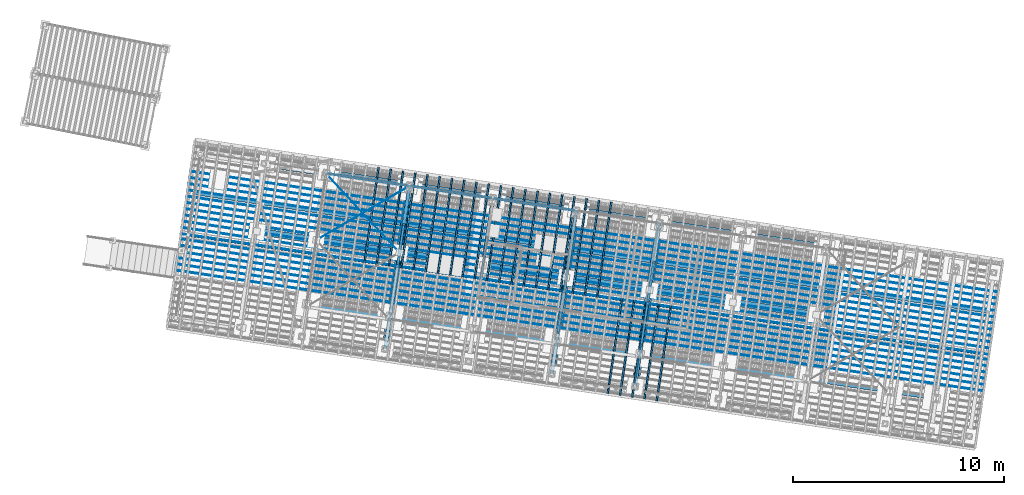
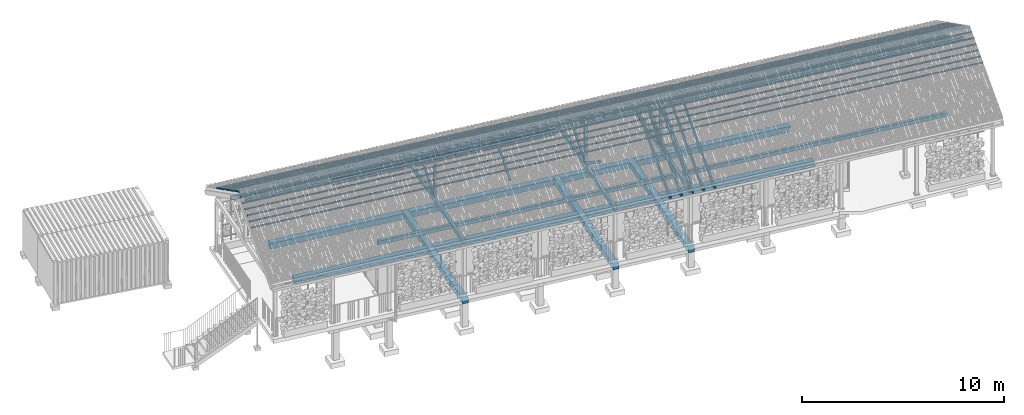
# One storey, part 80 of 131: 63 members, 11 beams, 2 elements without a shape of their own.
"""IFC4 building model written with IfcOpenShell, lengths in metres."""

from ifc_helpers import new_model, si_unit, direction, frame, origin_with_axes, place, context, subcontext, project, spatial, polyline, rectangle, outline, extrude, material, material_profile, profile_set, profile_usage, type_object, element, aggregate, save


model = new_model("IFC4")

# Units and contexts
model_context = context("Model", 3, precision=1e-05, world=origin_with_axes(), true_north=direction((0.0, 1.0)))
body_context = subcontext(model_context, "Body", "Model", "MODEL_VIEW")
ifc_project = project(units=[si_unit("VOLUMEUNIT", "CUBIC_METRE"), si_unit("LENGTHUNIT", "METRE"), si_unit("AREAUNIT", "SQUARE_METRE")], contexts=[model_context])

# Site, building, storey
site_placement = place(None, origin_with_axes())
site = spatial("IfcSite", under=ifc_project, at=site_placement, Name="Lares · Rua das Mercês · artigo 4771")
building_placement = place(site_placement, frame((15.0, 9.7, 14.65), z_axis=(0.0, 0.0, 1.0), x_axis=(0.989015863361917, -0.147809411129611, 0.0)))
building = spatial("IfcBuilding", under=site, at=building_placement, Name="Casa Sobreposta")
storey_placement = place(building_placement, origin_with_axes())
storey = spatial("IfcBuildingStorey", under=building, at=storey_placement, Name="00 · Habitação e estacionamento", Elevation=14.65)

# Beam
ifc_material_1 = material(Name="Madeira / Bauholz", Category="wood")
ifc_material_profile_1 = material_profile(ifc_material_1, rectangle(XDim=0.16, YDim=0.22))
ifc_profile_set_1 = profile_set([ifc_material_profile_1], Name="TIMBER0.160x0.220")
ifc_profile_usage_1 = profile_usage(ifc_profile_set_1)
beam_type_1 = type_object("IfcBeamType", Name="TIMBER0.160x0.220 / timber", PredefinedType="NOTDEFINED", material=ifc_profile_set_1)
beam_1_placement = place(storey_placement, frame((0.0, 0.12, 3.0), z_axis=(1.0, 0.0, 0.0), x_axis=(0.0, -1.0, 0.0)))
element("IfcBeam", 1, at=beam_1_placement, inside=storey, type_object=beam_type_1, material=ifc_profile_usage_1, Name="Cobertura · frechal longitudinal", context=body_context, shape_type="SweptSolid", body=[
    extrude(rectangle(XDim=0.16, YDim=0.22), origin_with_axes(), (0.0, 0.0, 1.0), 30.22),
])

# Members
ifc_material_2 = material(Name="Aço pintado / Stahl lackiert", Category="steel")
ifc_material_profile_2 = material_profile(ifc_material_2, rectangle(XDim=0.035, YDim=0.035))
ifc_profile_set_2 = profile_set([ifc_material_profile_2], Name="R0.035")
ifc_profile_usage_2 = profile_usage(ifc_profile_set_2)
member_type_1 = type_object("IfcMemberType", Name="R0.035 / steel", PredefinedType="NOTDEFINED", material=ifc_profile_set_2)
member_1_placement = place(storey_placement, frame((0.08, 6.4, 2.35), z_axis=(1.0, 0.0, 0.0), x_axis=(0.0, -1.0, 0.0)))
element("IfcMember", 2, at=member_1_placement, inside=storey, type_object=member_type_1, material=ifc_profile_usage_2, Name="Rasgo norte 1 · travessa", context=body_context, shape_type="SweptSolid", body=[
    extrude(rectangle(XDim=0.035, YDim=0.035), origin_with_axes(), (0.0, 0.0, 1.0), 3.84),
])
ifc_profile_usage_3 = profile_usage(ifc_profile_set_2)
member_2_placement = place(storey_placement, frame((0.08, 6.4, 2.7), z_axis=(1.0, 0.0, 0.0), x_axis=(0.0, -1.0, 0.0)))
element("IfcMember", 3, at=member_2_placement, inside=storey, type_object=member_type_1, material=ifc_profile_usage_3, Name="Rasgo norte 1 · travessa", context=body_context, shape_type="SweptSolid", body=[
    extrude(rectangle(XDim=0.035, YDim=0.035), origin_with_axes(), (0.0, 0.0, 1.0), 3.84),
])
ifc_profile_usage_4 = profile_usage(ifc_profile_set_2)
member_3_placement = place(storey_placement, frame((4.08, 6.4, 2.35), z_axis=(1.0, 0.0, 0.0), x_axis=(0.0, -1.0, 0.0)))
element("IfcMember", 4, at=member_3_placement, inside=storey, type_object=member_type_1, material=ifc_profile_usage_4, Name="Rasgo norte 2 · travessa", context=body_context, shape_type="SweptSolid", body=[
    extrude(rectangle(XDim=0.035, YDim=0.035), origin_with_axes(), (0.0, 0.0, 1.0), 3.84),
])
ifc_profile_usage_5 = profile_usage(ifc_profile_set_2)
member_4_placement = place(storey_placement, frame((4.08, 6.4, 2.7), z_axis=(1.0, 0.0, 0.0), x_axis=(0.0, -1.0, 0.0)))
element("IfcMember", 5, at=member_4_placement, inside=storey, type_object=member_type_1, material=ifc_profile_usage_5, Name="Rasgo norte 2 · travessa", context=body_context, shape_type="SweptSolid", body=[
    extrude(rectangle(XDim=0.035, YDim=0.035), origin_with_axes(), (0.0, 0.0, 1.0), 3.84),
])
ifc_profile_usage_6 = profile_usage(ifc_profile_set_2)
member_5_placement = place(storey_placement, frame((8.08, 6.4, 2.35), z_axis=(1.0, 0.0, 0.0), x_axis=(0.0, -1.0, 0.0)))
element("IfcMember", 6, at=member_5_placement, inside=storey, type_object=member_type_1, material=ifc_profile_usage_6, Name="Rasgo norte 3 · travessa", context=body_context, shape_type="SweptSolid", body=[
    extrude(rectangle(XDim=0.035, YDim=0.035), origin_with_axes(), (0.0, 0.0, 1.0), 3.84),
])
ifc_profile_usage_7 = profile_usage(ifc_profile_set_2)
member_6_placement = place(storey_placement, frame((8.08, 6.4, 2.7), z_axis=(1.0, 0.0, 0.0), x_axis=(0.0, -1.0, 0.0)))
element("IfcMember", 7, at=member_6_placement, inside=storey, type_object=member_type_1, material=ifc_profile_usage_7, Name="Rasgo norte 3 · travessa", context=body_context, shape_type="SweptSolid", body=[
    extrude(rectangle(XDim=0.035, YDim=0.035), origin_with_axes(), (0.0, 0.0, 1.0), 3.84),
])

# Roof, beams, members
roof_placement = place(storey_placement, origin_with_axes())
roof = element("IfcRoof", 8, at=roof_placement, inside=storey, material=ifc_material_1, Name="Cobertura de telha · duas águas 30 graus", PredefinedType="GABLE_ROOF")
ifc_material_profile_3 = material_profile(ifc_material_1, rectangle(XDim=0.16, YDim=0.24))
ifc_profile_set_3 = profile_set([ifc_material_profile_3], Name="TIMBER0.160x0.240")
ifc_profile_usage_8 = profile_usage(ifc_profile_set_3)
beam_type_2 = type_object("IfcBeamType", Name="TIMBER0.160x0.240 / timber", PredefinedType="NOTDEFINED", material=ifc_profile_set_3)
beam_2_placement = place(roof_placement, frame((4.0, -1.43, 3.02), z_axis=(0.0, 1.0, 0.0), x_axis=(1.0, 0.0, 0.0)))
beam_2 = element("IfcBeam", 9, at=beam_2_placement, type_object=beam_type_2, material=ifc_profile_usage_8, Name="Tesoura · tirante inferior", context=body_context, shape_type="SweptSolid", body=[
    extrude(rectangle(XDim=0.16, YDim=0.24), origin_with_axes(), (0.0, 0.0, 1.0), 7.86),
])
ifc_profile_usage_9 = profile_usage(ifc_profile_set_3)
beam_3_placement = place(roof_placement, frame((12.0, -1.43, 3.02), z_axis=(0.0, 1.0, 0.0), x_axis=(1.0, 0.0, 0.0)))
beam_3 = element("IfcBeam", 10, at=beam_3_placement, type_object=beam_type_2, material=ifc_profile_usage_9, Name="Tesoura · tirante inferior", context=body_context, shape_type="SweptSolid", body=[
    extrude(rectangle(XDim=0.16, YDim=0.24), origin_with_axes(), (0.0, 0.0, 1.0), 7.86),
])
ifc_profile_usage_10 = profile_usage(ifc_profile_set_3)
beam_4_placement = place(roof_placement, frame((16.0, -1.43, 3.02), z_axis=(0.0, 1.0, 0.0), x_axis=(1.0, 0.0, 0.0)))
beam_4 = element("IfcBeam", 11, at=beam_4_placement, type_object=beam_type_2, material=ifc_profile_usage_10, Name="Tesoura · tirante inferior", context=body_context, shape_type="SweptSolid", body=[
    extrude(rectangle(XDim=0.16, YDim=0.24), origin_with_axes(), (0.0, 0.0, 1.0), 7.86),
])
ifc_material_profile_4 = material_profile(ifc_material_1, rectangle(XDim=0.16, YDim=0.24))
ifc_profile_set_4 = profile_set([ifc_material_profile_4], Name="TIMBER0.160x0.240")
ifc_profile_usage_11 = profile_usage(ifc_profile_set_4)
member_type_2 = type_object("IfcMemberType", Name="TIMBER0.160x0.240 / timber", PredefinedType="NOTDEFINED", material=ifc_profile_set_4)
member_7_placement = place(roof_placement, frame((4.0, 2.55, 5.74420869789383), z_axis=(0.0, 0.866025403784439, -0.5), x_axis=(1.0, 0.0, 0.0)))
member_7 = element("IfcMember", 12, at=member_7_placement, type_object=member_type_2, material=ifc_profile_usage_11, Name="Tesoura · perna", context=body_context, shape_type="SweptSolid", body=[
    extrude(rectangle(XDim=0.16, YDim=0.24), origin_with_axes(), (0.0, 0.0, 1.0), 4.4802380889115),
])
ifc_profile_usage_12 = profile_usage(ifc_profile_set_4)
member_8_placement = place(roof_placement, frame((8.0, 2.55, 5.74420869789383), z_axis=(0.0, 0.866025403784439, -0.5), x_axis=(1.0, 0.0, 0.0)))
member_8 = element("IfcMember", 13, at=member_8_placement, type_object=member_type_2, material=ifc_profile_usage_12, Name="Tesoura · perna", context=body_context, shape_type="SweptSolid", body=[
    extrude(rectangle(XDim=0.16, YDim=0.24), origin_with_axes(), (0.0, 0.0, 1.0), 4.4802380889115),
])
ifc_profile_usage_13 = profile_usage(ifc_profile_set_4)
member_9_placement = place(roof_placement, frame((12.0, 2.55, 5.74420869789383), z_axis=(0.0, 0.866025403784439, -0.5), x_axis=(1.0, 0.0, 0.0)))
member_9 = element("IfcMember", 14, at=member_9_placement, type_object=member_type_2, material=ifc_profile_usage_13, Name="Tesoura · perna", context=body_context, shape_type="SweptSolid", body=[
    extrude(rectangle(XDim=0.16, YDim=0.24), origin_with_axes(), (0.0, 0.0, 1.0), 4.4802380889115),
])
ifc_profile_usage_14 = profile_usage(ifc_profile_set_4)
member_10_placement = place(roof_placement, frame((16.0, -1.43, 3.44635462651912), z_axis=(0.0, 0.866025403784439, 0.5), x_axis=(1.0, 0.0, 0.0)))
member_10 = element("IfcMember", 15, at=member_10_placement, type_object=member_type_2, material=ifc_profile_usage_14, Name="Tesoura · perna", context=body_context, shape_type="SweptSolid", body=[
    extrude(rectangle(XDim=0.16, YDim=0.24), origin_with_axes(), (0.0, 0.0, 1.0), 4.59570814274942),
])
ifc_material_profile_5 = material_profile(ifc_material_1, rectangle(XDim=0.14, YDim=0.14))
ifc_profile_set_5 = profile_set([ifc_material_profile_5], Name="TIMBER0.140x0.140")
ifc_profile_usage_15 = profile_usage(ifc_profile_set_5)
member_type_3 = type_object("IfcMemberType", Name="TIMBER0.140x0.140 / timber", PredefinedType="NOTDEFINED", material=ifc_profile_set_5)
member_11_placement = place(roof_placement, frame((4.0, 2.55, 3.02), z_axis=(0.0, 0.0, 1.0), x_axis=(1.0, 0.0, 0.0)))
member_11 = element("IfcMember", 16, at=member_11_placement, type_object=member_type_3, material=ifc_profile_usage_15, Name="Tesoura · pendural", context=body_context, shape_type="SweptSolid", body=[
    extrude(rectangle(XDim=0.14, YDim=0.14), origin_with_axes(), (0.0, 0.0, 1.0), 2.72420869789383),
])
ifc_profile_usage_16 = profile_usage(ifc_profile_set_5)
member_12_placement = place(roof_placement, frame((12.0, 2.55, 3.02), z_axis=(0.0, 0.0, 1.0), x_axis=(1.0, 0.0, 0.0)))
member_12 = element("IfcMember", 17, at=member_12_placement, type_object=member_type_3, material=ifc_profile_usage_16, Name="Tesoura · pendural", context=body_context, shape_type="SweptSolid", body=[
    extrude(rectangle(XDim=0.14, YDim=0.14), origin_with_axes(), (0.0, 0.0, 1.0), 2.72420869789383),
])
ifc_profile_usage_17 = profile_usage(ifc_profile_set_5)
member_13_placement = place(roof_placement, frame((16.0, 2.55, 3.02), z_axis=(0.0, 0.0, 1.0), x_axis=(1.0, 0.0, 0.0)))
member_13 = element("IfcMember", 18, at=member_13_placement, type_object=member_type_3, material=ifc_profile_usage_17, Name="Tesoura · pendural", context=body_context, shape_type="SweptSolid", body=[
    extrude(rectangle(XDim=0.14, YDim=0.14), origin_with_axes(), (0.0, 0.0, 1.0), 2.72420869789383),
])
ifc_material_profile_6 = material_profile(ifc_material_1, rectangle(XDim=0.1, YDim=0.16))
ifc_profile_set_6 = profile_set([ifc_material_profile_6], Name="TIMBER0.100x0.160")
ifc_profile_usage_18 = profile_usage(ifc_profile_set_6)
member_type_4 = type_object("IfcMemberType", Name="TIMBER0.100x0.160 / timber", PredefinedType="NOTDEFINED", material=ifc_profile_set_6)
member_14_placement = place(roof_placement, frame((4.0, 2.55, 3.1), z_axis=(0.0, 0.816439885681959, 0.577430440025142), x_axis=(1.0, 0.0, 0.0)))
member_14 = element("IfcMember", 19, at=member_14_placement, type_object=member_type_4, material=ifc_profile_usage_18, Name="Tesoura · escora", context=body_context, shape_type="SweptSolid", body=[
    extrude(rectangle(XDim=0.1, YDim=0.16), origin_with_axes(), (0.0, 0.0, 1.0), 2.44965984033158),
])
ifc_profile_usage_19 = profile_usage(ifc_profile_set_6)
member_15_placement = place(roof_placement, frame((8.0, 2.55, 3.1), z_axis=(0.0, 0.816439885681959, 0.577430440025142), x_axis=(1.0, 0.0, 0.0)))
member_15 = element("IfcMember", 20, at=member_15_placement, type_object=member_type_4, material=ifc_profile_usage_19, Name="Tesoura · escora", context=body_context, shape_type="SweptSolid", body=[
    extrude(rectangle(XDim=0.1, YDim=0.16), origin_with_axes(), (0.0, 0.0, 1.0), 2.44965984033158),
])
ifc_profile_usage_20 = profile_usage(ifc_profile_set_6)
member_16_placement = place(roof_placement, frame((12.0, 2.55, 3.1), z_axis=(0.0, -0.816439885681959, 0.577430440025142), x_axis=(-1.0, 0.0, 0.0)))
member_16 = element("IfcMember", 21, at=member_16_placement, type_object=member_type_4, material=ifc_profile_usage_20, Name="Tesoura · escora", context=body_context, shape_type="SweptSolid", body=[
    extrude(rectangle(XDim=0.1, YDim=0.16), origin_with_axes(), (0.0, 0.0, 1.0), 2.44965984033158),
])
ifc_profile_usage_21 = profile_usage(ifc_profile_set_6)
member_17_placement = place(roof_placement, frame((12.0, 2.55, 3.1), z_axis=(0.0, 0.816439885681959, 0.577430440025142), x_axis=(1.0, 0.0, 0.0)))
member_17 = element("IfcMember", 22, at=member_17_placement, type_object=member_type_4, material=ifc_profile_usage_21, Name="Tesoura · escora", context=body_context, shape_type="SweptSolid", body=[
    extrude(rectangle(XDim=0.1, YDim=0.16), origin_with_axes(), (0.0, 0.0, 1.0), 2.44965984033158),
])
ifc_profile_usage_22 = profile_usage(ifc_profile_set_6)
member_18_placement = place(roof_placement, frame((16.0, 2.55, 3.1), z_axis=(0.0, -0.816439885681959, 0.577430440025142), x_axis=(-1.0, 0.0, 0.0)))
member_18 = element("IfcMember", 23, at=member_18_placement, type_object=member_type_4, material=ifc_profile_usage_22, Name="Tesoura · escora", context=body_context, shape_type="SweptSolid", body=[
    extrude(rectangle(XDim=0.1, YDim=0.16), origin_with_axes(), (0.0, 0.0, 1.0), 2.44965984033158),
])
ifc_profile_usage_23 = profile_usage(ifc_profile_set_6)
member_19_placement = place(roof_placement, frame((16.0, 2.55, 3.1), z_axis=(0.0, 0.816439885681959, 0.577430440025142), x_axis=(1.0, 0.0, 0.0)))
member_19 = element("IfcMember", 24, at=member_19_placement, type_object=member_type_4, material=ifc_profile_usage_23, Name="Tesoura · escora", context=body_context, shape_type="SweptSolid", body=[
    extrude(rectangle(XDim=0.1, YDim=0.16), origin_with_axes(), (0.0, 0.0, 1.0), 2.44965984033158),
])
ifc_material_profile_7 = material_profile(ifc_material_1, rectangle(XDim=0.08, YDim=0.24))
ifc_profile_set_7 = profile_set([ifc_material_profile_7], Name="TIMBER0.080x0.240")
ifc_profile_usage_24 = profile_usage(ifc_profile_set_7)
member_type_5 = type_object("IfcMemberType", Name="TIMBER0.080x0.240 / timber", PredefinedType="NOTDEFINED", material=ifc_profile_set_7)
member_20_placement = place(roof_placement, frame((2.41818181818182, 2.55, 5.75020869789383), z_axis=(0.0, 0.866025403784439, -0.5), x_axis=(1.0, 0.0, 0.0)))
member_20 = element("IfcMember", 25, at=member_20_placement, type_object=member_type_5, material=ifc_profile_usage_24, Name="Cobertura · caibro", context=body_context, shape_type="SweptSolid", body=[
    extrude(rectangle(XDim=0.08, YDim=0.24), origin_with_axes(), (0.0, 0.0, 1.0), 5.13841739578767),
])
ifc_profile_usage_25 = profile_usage(ifc_profile_set_7)
member_21_placement = place(roof_placement, frame((3.00606060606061, 2.55, 5.75020869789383), z_axis=(0.0, 0.866025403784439, -0.5), x_axis=(1.0, 0.0, 0.0)))
member_21 = element("IfcMember", 26, at=member_21_placement, type_object=member_type_5, material=ifc_profile_usage_25, Name="Cobertura · caibro", context=body_context, shape_type="SweptSolid", body=[
    extrude(rectangle(XDim=0.08, YDim=0.24), origin_with_axes(), (0.0, 0.0, 1.0), 5.13841739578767),
])
ifc_profile_usage_26 = profile_usage(ifc_profile_set_7)
member_22_placement = place(roof_placement, frame((3.59393939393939, 2.55, 5.75020869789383), z_axis=(0.0, 0.866025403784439, -0.5), x_axis=(1.0, 0.0, 0.0)))
member_22 = element("IfcMember", 27, at=member_22_placement, type_object=member_type_5, material=ifc_profile_usage_26, Name="Cobertura · caibro", context=body_context, shape_type="SweptSolid", body=[
    extrude(rectangle(XDim=0.08, YDim=0.24), origin_with_axes(), (0.0, 0.0, 1.0), 5.13841739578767),
])
ifc_profile_usage_27 = profile_usage(ifc_profile_set_7)
member_23_placement = place(roof_placement, frame((4.18181818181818, 2.55, 5.75020869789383), z_axis=(0.0, 0.866025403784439, -0.5), x_axis=(1.0, 0.0, 0.0)))
member_23 = element("IfcMember", 28, at=member_23_placement, type_object=member_type_5, material=ifc_profile_usage_27, Name="Cobertura · caibro", context=body_context, shape_type="SweptSolid", body=[
    extrude(rectangle(XDim=0.08, YDim=0.24), origin_with_axes(), (0.0, 0.0, 1.0), 5.13841739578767),
])
ifc_profile_usage_28 = profile_usage(ifc_profile_set_7)
member_24_placement = place(roof_placement, frame((4.76969696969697, 2.55, 5.75020869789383), z_axis=(0.0, 0.866025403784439, -0.5), x_axis=(1.0, 0.0, 0.0)))
member_24 = element("IfcMember", 29, at=member_24_placement, type_object=member_type_5, material=ifc_profile_usage_28, Name="Cobertura · caibro", context=body_context, shape_type="SweptSolid", body=[
    extrude(rectangle(XDim=0.08, YDim=0.24), origin_with_axes(), (0.0, 0.0, 1.0), 5.13841739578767),
])
ifc_profile_usage_29 = profile_usage(ifc_profile_set_7)
member_25_placement = place(roof_placement, frame((5.35757575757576, 2.55, 5.75020869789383), z_axis=(0.0, 0.866025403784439, -0.5), x_axis=(1.0, 0.0, 0.0)))
member_25 = element("IfcMember", 30, at=member_25_placement, type_object=member_type_5, material=ifc_profile_usage_29, Name="Cobertura · caibro", context=body_context, shape_type="SweptSolid", body=[
    extrude(rectangle(XDim=0.08, YDim=0.24), origin_with_axes(), (0.0, 0.0, 1.0), 5.13841739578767),
])
ifc_profile_usage_30 = profile_usage(ifc_profile_set_7)
member_26_placement = place(roof_placement, frame((5.94545454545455, 2.55, 5.75020869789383), z_axis=(0.0, 0.866025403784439, -0.5), x_axis=(1.0, 0.0, 0.0)))
member_26 = element("IfcMember", 31, at=member_26_placement, type_object=member_type_5, material=ifc_profile_usage_30, Name="Cobertura · caibro", context=body_context, shape_type="SweptSolid", body=[
    extrude(rectangle(XDim=0.08, YDim=0.24), origin_with_axes(), (0.0, 0.0, 1.0), 5.13841739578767),
])
ifc_profile_usage_31 = profile_usage(ifc_profile_set_7)
member_27_placement = place(roof_placement, frame((6.53333333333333, 2.55, 5.75020869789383), z_axis=(0.0, 0.866025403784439, -0.5), x_axis=(1.0, 0.0, 0.0)))
member_27 = element("IfcMember", 32, at=member_27_placement, type_object=member_type_5, material=ifc_profile_usage_31, Name="Cobertura · caibro", context=body_context, shape_type="SweptSolid", body=[
    extrude(rectangle(XDim=0.08, YDim=0.24), origin_with_axes(), (0.0, 0.0, 1.0), 5.13841739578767),
])
ifc_profile_usage_32 = profile_usage(ifc_profile_set_7)
member_28_placement = place(roof_placement, frame((7.12121212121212, 2.55, 5.75020869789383), z_axis=(0.0, 0.866025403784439, -0.5), x_axis=(1.0, 0.0, 0.0)))
member_28 = element("IfcMember", 33, at=member_28_placement, type_object=member_type_5, material=ifc_profile_usage_32, Name="Cobertura · caibro", context=body_context, shape_type="SweptSolid", body=[
    extrude(rectangle(XDim=0.08, YDim=0.24), origin_with_axes(), (0.0, 0.0, 1.0), 5.13841739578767),
])
ifc_profile_usage_33 = profile_usage(ifc_profile_set_7)
member_29_placement = place(roof_placement, frame((7.70909090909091, 2.55, 5.75020869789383), z_axis=(0.0, 0.866025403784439, -0.5), x_axis=(1.0, 0.0, 0.0)))
member_29 = element("IfcMember", 34, at=member_29_placement, type_object=member_type_5, material=ifc_profile_usage_33, Name="Cobertura · caibro", context=body_context, shape_type="SweptSolid", body=[
    extrude(rectangle(XDim=0.08, YDim=0.24), origin_with_axes(), (0.0, 0.0, 1.0), 5.13841739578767),
])
ifc_profile_usage_34 = profile_usage(ifc_profile_set_7)
member_30_placement = place(roof_placement, frame((8.2969696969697, 2.55, 5.75020869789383), z_axis=(0.0, 0.866025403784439, -0.5), x_axis=(1.0, 0.0, 0.0)))
member_30 = element("IfcMember", 35, at=member_30_placement, type_object=member_type_5, material=ifc_profile_usage_34, Name="Cobertura · caibro", context=body_context, shape_type="SweptSolid", body=[
    extrude(rectangle(XDim=0.08, YDim=0.24), origin_with_axes(), (0.0, 0.0, 1.0), 5.13841739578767),
])
ifc_profile_usage_35 = profile_usage(ifc_profile_set_7)
member_31_placement = place(roof_placement, frame((8.88484848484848, 2.55, 5.75020869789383), z_axis=(0.0, 0.866025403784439, -0.5), x_axis=(1.0, 0.0, 0.0)))
member_31 = element("IfcMember", 36, at=member_31_placement, type_object=member_type_5, material=ifc_profile_usage_35, Name="Cobertura · caibro", context=body_context, shape_type="SweptSolid", body=[
    extrude(rectangle(XDim=0.08, YDim=0.24), origin_with_axes(), (0.0, 0.0, 1.0), 5.13841739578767),
])
ifc_profile_usage_36 = profile_usage(ifc_profile_set_7)
member_32_placement = place(roof_placement, frame((9.47272727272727, 2.55, 5.75020869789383), z_axis=(0.0, 0.866025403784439, -0.5), x_axis=(1.0, 0.0, 0.0)))
member_32 = element("IfcMember", 37, at=member_32_placement, type_object=member_type_5, material=ifc_profile_usage_36, Name="Cobertura · caibro", context=body_context, shape_type="SweptSolid", body=[
    extrude(rectangle(XDim=0.08, YDim=0.24), origin_with_axes(), (0.0, 0.0, 1.0), 5.13841739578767),
])
ifc_profile_usage_37 = profile_usage(ifc_profile_set_7)
member_33_placement = place(roof_placement, frame((10.0606060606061, 2.55, 5.75020869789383), z_axis=(0.0, 0.866025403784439, -0.5), x_axis=(1.0, 0.0, 0.0)))
member_33 = element("IfcMember", 38, at=member_33_placement, type_object=member_type_5, material=ifc_profile_usage_37, Name="Cobertura · caibro", context=body_context, shape_type="SweptSolid", body=[
    extrude(rectangle(XDim=0.08, YDim=0.24), origin_with_axes(), (0.0, 0.0, 1.0), 5.13841739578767),
])
ifc_profile_usage_38 = profile_usage(ifc_profile_set_7)
member_34_placement = place(roof_placement, frame((10.6484848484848, 2.55, 5.75020869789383), z_axis=(0.0, 0.866025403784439, -0.5), x_axis=(1.0, 0.0, 0.0)))
member_34 = element("IfcMember", 39, at=member_34_placement, type_object=member_type_5, material=ifc_profile_usage_38, Name="Cobertura · caibro", context=body_context, shape_type="SweptSolid", body=[
    extrude(rectangle(XDim=0.08, YDim=0.24), origin_with_axes(), (0.0, 0.0, 1.0), 5.13841739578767),
])
ifc_profile_usage_39 = profile_usage(ifc_profile_set_7)
member_35_placement = place(roof_placement, frame((11.2363636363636, 2.55, 5.75020869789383), z_axis=(0.0, 0.866025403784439, -0.5), x_axis=(1.0, 0.0, 0.0)))
member_35 = element("IfcMember", 40, at=member_35_placement, type_object=member_type_5, material=ifc_profile_usage_39, Name="Cobertura · caibro", context=body_context, shape_type="SweptSolid", body=[
    extrude(rectangle(XDim=0.08, YDim=0.24), origin_with_axes(), (0.0, 0.0, 1.0), 5.13841739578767),
])
ifc_profile_usage_40 = profile_usage(ifc_profile_set_7)
member_36_placement = place(roof_placement, frame((11.8242424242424, 2.55, 5.75020869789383), z_axis=(0.0, 0.866025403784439, -0.5), x_axis=(1.0, 0.0, 0.0)))
member_36 = element("IfcMember", 41, at=member_36_placement, type_object=member_type_5, material=ifc_profile_usage_40, Name="Cobertura · caibro", context=body_context, shape_type="SweptSolid", body=[
    extrude(rectangle(XDim=0.08, YDim=0.24), origin_with_axes(), (0.0, 0.0, 1.0), 5.13841739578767),
])
ifc_profile_usage_41 = profile_usage(ifc_profile_set_7)
member_37_placement = place(roof_placement, frame((12.4121212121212, 2.55, 5.75020869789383), z_axis=(0.0, 0.866025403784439, -0.5), x_axis=(1.0, 0.0, 0.0)))
member_37 = element("IfcMember", 42, at=member_37_placement, type_object=member_type_5, material=ifc_profile_usage_41, Name="Cobertura · caibro", context=body_context, shape_type="SweptSolid", body=[
    extrude(rectangle(XDim=0.08, YDim=0.24), origin_with_axes(), (0.0, 0.0, 1.0), 5.13841739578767),
])
ifc_profile_usage_42 = profile_usage(ifc_profile_set_7)
member_38_placement = place(roof_placement, frame((13.0, 2.55, 5.75020869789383), z_axis=(0.0, 0.866025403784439, -0.5), x_axis=(1.0, 0.0, 0.0)))
member_38 = element("IfcMember", 43, at=member_38_placement, type_object=member_type_5, material=ifc_profile_usage_42, Name="Cobertura · caibro", context=body_context, shape_type="SweptSolid", body=[
    extrude(rectangle(XDim=0.08, YDim=0.24), origin_with_axes(), (0.0, 0.0, 1.0), 5.13841739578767),
])
ifc_profile_usage_43 = profile_usage(ifc_profile_set_7)
member_39_placement = place(roof_placement, frame((13.5878787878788, 2.55, 5.75020869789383), z_axis=(0.0, 0.866025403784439, -0.5), x_axis=(1.0, 0.0, 0.0)))
member_39 = element("IfcMember", 44, at=member_39_placement, type_object=member_type_5, material=ifc_profile_usage_43, Name="Cobertura · caibro", context=body_context, shape_type="SweptSolid", body=[
    extrude(rectangle(XDim=0.08, YDim=0.24), origin_with_axes(), (0.0, 0.0, 1.0), 5.13841739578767),
])
ifc_profile_usage_44 = profile_usage(ifc_profile_set_7)
member_40_placement = place(roof_placement, frame((14.7636363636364, -1.9, 3.181), z_axis=(0.0, 0.866025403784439, 0.5), x_axis=(1.0, 0.0, 0.0)))
member_40 = element("IfcMember", 45, at=member_40_placement, type_object=member_type_5, material=ifc_profile_usage_44, Name="Cobertura · caibro", context=body_context, shape_type="SweptSolid", body=[
    extrude(rectangle(XDim=0.08, YDim=0.24), origin_with_axes(), (0.0, 0.0, 1.0), 5.13841739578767),
])
ifc_profile_usage_45 = profile_usage(ifc_profile_set_7)
member_41_placement = place(roof_placement, frame((15.3515151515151, -1.9, 3.181), z_axis=(0.0, 0.866025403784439, 0.5), x_axis=(1.0, 0.0, 0.0)))
member_41 = element("IfcMember", 46, at=member_41_placement, type_object=member_type_5, material=ifc_profile_usage_45, Name="Cobertura · caibro", context=body_context, shape_type="SweptSolid", body=[
    extrude(rectangle(XDim=0.08, YDim=0.24), origin_with_axes(), (0.0, 0.0, 1.0), 5.13841739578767),
])
ifc_profile_usage_46 = profile_usage(ifc_profile_set_7)
member_42_placement = place(roof_placement, frame((15.9393939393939, -1.9, 3.181), z_axis=(0.0, 0.866025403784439, 0.5), x_axis=(1.0, 0.0, 0.0)))
member_42 = element("IfcMember", 47, at=member_42_placement, type_object=member_type_5, material=ifc_profile_usage_46, Name="Cobertura · caibro", context=body_context, shape_type="SweptSolid", body=[
    extrude(rectangle(XDim=0.08, YDim=0.24), origin_with_axes(), (0.0, 0.0, 1.0), 5.13841739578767),
])
ifc_profile_usage_47 = profile_usage(ifc_profile_set_7)
member_43_placement = place(roof_placement, frame((16.5272727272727, -1.9, 3.181), z_axis=(0.0, 0.866025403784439, 0.5), x_axis=(1.0, 0.0, 0.0)))
member_43 = element("IfcMember", 48, at=member_43_placement, type_object=member_type_5, material=ifc_profile_usage_47, Name="Cobertura · caibro", context=body_context, shape_type="SweptSolid", body=[
    extrude(rectangle(XDim=0.08, YDim=0.24), origin_with_axes(), (0.0, 0.0, 1.0), 5.13841739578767),
])
ifc_profile_usage_48 = profile_usage(ifc_profile_set_7)
member_44_placement = place(roof_placement, frame((17.1151515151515, -1.9, 3.181), z_axis=(0.0, 0.866025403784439, 0.5), x_axis=(1.0, 0.0, 0.0)))
member_44 = element("IfcMember", 49, at=member_44_placement, type_object=member_type_5, material=ifc_profile_usage_48, Name="Cobertura · caibro", context=body_context, shape_type="SweptSolid", body=[
    extrude(rectangle(XDim=0.08, YDim=0.24), origin_with_axes(), (0.0, 0.0, 1.0), 5.13841739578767),
])
ifc_material_profile_8 = material_profile(ifc_material_1, rectangle(XDim=0.14, YDim=0.22))
ifc_profile_set_8 = profile_set([ifc_material_profile_8], Name="TIMBER0.140x0.220")
ifc_profile_usage_49 = profile_usage(ifc_profile_set_8)
beam_type_3 = type_object("IfcBeamType", Name="TIMBER0.140x0.220 / timber", PredefinedType="NOTDEFINED", material=ifc_profile_set_8)
beam_5_placement = place(roof_placement, frame((-6.05, 2.55, 5.49920869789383), z_axis=(1.0, 0.0, 0.0), x_axis=(0.0, -1.0, 0.0)))
beam_5 = element("IfcBeam", 50, at=beam_5_placement, type_object=beam_type_3, material=ifc_profile_usage_49, Name="Cobertura · terça", context=body_context, shape_type="SweptSolid", body=[
    extrude(rectangle(XDim=0.14, YDim=0.22), origin_with_axes(), (0.0, 0.0, 1.0), 38.1),
])
ifc_profile_usage_50 = profile_usage(ifc_profile_set_8)
beam_6_placement = place(roof_placement, frame((-6.05, 4.55, 4.34450815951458), z_axis=(1.0, 0.0, 0.0), x_axis=(0.0, -1.0, 0.0)))
beam_6 = element("IfcBeam", 51, at=beam_6_placement, type_object=beam_type_3, material=ifc_profile_usage_50, Name="Cobertura · terça", context=body_context, shape_type="SweptSolid", body=[
    extrude(rectangle(XDim=0.14, YDim=0.22), origin_with_axes(), (0.0, 0.0, 1.0), 38.1),
])
ifc_material_3 = material(Name="Aço galvanizado / Stahl verzinkt", Category="steel")
ifc_material_profile_9 = material_profile(ifc_material_3, rectangle(XDim=0.025, YDim=0.025))
ifc_profile_set_9 = profile_set([ifc_material_profile_9], Name="R0.025")
ifc_profile_usage_51 = profile_usage(ifc_profile_set_9)
member_type_6 = type_object("IfcMemberType", Name="R0.025 / galvanized", PredefinedType="NOTDEFINED", material=ifc_profile_set_9)
member_45_placement = place(roof_placement, frame((0.0, 3.2, 5.49593102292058), z_axis=(0.734553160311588, 0.58764252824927, -0.339275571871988), x_axis=(0.624695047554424, -0.78086880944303, 0.0)))
member_45 = element("IfcMember", 52, at=member_45_placement, type_object=member_type_6, material=ifc_profile_usage_51, Name="Cobertura · fita de contraventamento", context=body_context, shape_type="SweptSolid", body=[
    extrude(rectangle(XDim=0.025, YDim=0.025), origin_with_axes(), (0.0, 0.0, 1.0), 5.44548742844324),
])
ifc_profile_usage_52 = profile_usage(ifc_profile_set_9)
member_46_placement = place(roof_placement, frame((0.0, 6.4, 3.64841016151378), z_axis=(0.734553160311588, -0.58764252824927, 0.339275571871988), x_axis=(-0.624695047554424, -0.78086880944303, 0.0)))
member_46 = element("IfcMember", 53, at=member_46_placement, type_object=member_type_6, material=ifc_profile_usage_52, Name="Cobertura · fita de contraventamento", context=body_context, shape_type="SweptSolid", body=[
    extrude(rectangle(XDim=0.025, YDim=0.025), origin_with_axes(), (0.0, 0.0, 1.0), 5.44548742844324),
])
ifc_material_profile_10 = material_profile(ifc_material_1, rectangle(XDim=0.045, YDim=0.06))
ifc_profile_set_10 = profile_set([ifc_material_profile_10], Name="TIMBER0.045x0.060")
ifc_profile_usage_53 = profile_usage(ifc_profile_set_10)
member_type_7 = type_object("IfcMemberType", Name="TIMBER0.045x0.060 / timber", PredefinedType="NOTDEFINED", material=ifc_profile_set_10)
member_47_placement = place(roof_placement, frame((-6.4, 0.8, 5.09284572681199), z_axis=(1.0, 0.0, 0.0), x_axis=(0.0, -1.0, 0.0)))
member_47 = element("IfcMember", 54, at=member_47_placement, type_object=member_type_7, material=ifc_profile_usage_53, Name="Cobertura · ripa ventilada", context=body_context, shape_type="SweptSolid", body=[
    extrude(rectangle(XDim=0.045, YDim=0.06), origin_with_axes(), (0.0, 0.0, 1.0), 38.8),
])
ifc_profile_usage_54 = profile_usage(ifc_profile_set_10)
member_48_placement = place(roof_placement, frame((-6.4, 1.1, 5.26605080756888), z_axis=(1.0, 0.0, 0.0), x_axis=(0.0, -1.0, 0.0)))
member_48 = element("IfcMember", 55, at=member_48_placement, type_object=member_type_7, material=ifc_profile_usage_54, Name="Cobertura · ripa ventilada", context=body_context, shape_type="SweptSolid", body=[
    extrude(rectangle(XDim=0.045, YDim=0.06), origin_with_axes(), (0.0, 0.0, 1.0), 38.8),
])
ifc_profile_usage_55 = profile_usage(ifc_profile_set_10)
member_49_placement = place(roof_placement, frame((-6.4, 1.4, 5.43925588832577), z_axis=(1.0, 0.0, 0.0), x_axis=(0.0, -1.0, 0.0)))
member_49 = element("IfcMember", 56, at=member_49_placement, type_object=member_type_7, material=ifc_profile_usage_55, Name="Cobertura · ripa ventilada", context=body_context, shape_type="SweptSolid", body=[
    extrude(rectangle(XDim=0.045, YDim=0.06), origin_with_axes(), (0.0, 0.0, 1.0), 38.8),
])
ifc_profile_usage_56 = profile_usage(ifc_profile_set_10)
member_50_placement = place(roof_placement, frame((-6.4, 1.7, 5.61246096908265), z_axis=(1.0, 0.0, 0.0), x_axis=(0.0, -1.0, 0.0)))
member_50 = element("IfcMember", 57, at=member_50_placement, type_object=member_type_7, material=ifc_profile_usage_56, Name="Cobertura · ripa ventilada", context=body_context, shape_type="SweptSolid", body=[
    extrude(rectangle(XDim=0.045, YDim=0.06), origin_with_axes(), (0.0, 0.0, 1.0), 38.8),
])
ifc_profile_usage_57 = profile_usage(ifc_profile_set_10)
member_51_placement = place(roof_placement, frame((-6.4, 2.0, 5.78566604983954), z_axis=(1.0, 0.0, 0.0), x_axis=(0.0, -1.0, 0.0)))
member_51 = element("IfcMember", 58, at=member_51_placement, type_object=member_type_7, material=ifc_profile_usage_57, Name="Cobertura · ripa ventilada", context=body_context, shape_type="SweptSolid", body=[
    extrude(rectangle(XDim=0.045, YDim=0.06), origin_with_axes(), (0.0, 0.0, 1.0), 38.8),
])
ifc_profile_usage_58 = profile_usage(ifc_profile_set_10)
member_52_placement = place(roof_placement, frame((-6.4, 2.3, 5.95887113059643), z_axis=(1.0, 0.0, 0.0), x_axis=(0.0, -1.0, 0.0)))
member_52 = element("IfcMember", 59, at=member_52_placement, type_object=member_type_7, material=ifc_profile_usage_58, Name="Cobertura · ripa ventilada", context=body_context, shape_type="SweptSolid", body=[
    extrude(rectangle(XDim=0.045, YDim=0.06), origin_with_axes(), (0.0, 0.0, 1.0), 38.8),
])
ifc_profile_usage_59 = profile_usage(ifc_profile_set_10)
member_53_placement = place(roof_placement, frame((-6.4, 2.55, 6.10320869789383), z_axis=(1.0, 0.0, 0.0), x_axis=(0.0, -1.0, 0.0)))
member_53 = element("IfcMember", 60, at=member_53_placement, type_object=member_type_7, material=ifc_profile_usage_59, Name="Cobertura · ripa ventilada", context=body_context, shape_type="SweptSolid", body=[
    extrude(rectangle(XDim=0.045, YDim=0.06), origin_with_axes(), (0.0, 0.0, 1.0), 38.8),
])
ifc_profile_usage_60 = profile_usage(ifc_profile_set_10)
member_54_placement = place(roof_placement, frame((-6.4, 2.85, 5.93000361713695), z_axis=(1.0, 0.0, 0.0), x_axis=(0.0, -1.0, 0.0)))
member_54 = element("IfcMember", 61, at=member_54_placement, type_object=member_type_7, material=ifc_profile_usage_60, Name="Cobertura · ripa ventilada", context=body_context, shape_type="SweptSolid", body=[
    extrude(rectangle(XDim=0.045, YDim=0.06), origin_with_axes(), (0.0, 0.0, 1.0), 38.8),
])
ifc_profile_usage_61 = profile_usage(ifc_profile_set_10)
member_55_placement = place(roof_placement, frame((-6.4, 3.15, 5.75679853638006), z_axis=(1.0, 0.0, 0.0), x_axis=(0.0, -1.0, 0.0)))
member_55 = element("IfcMember", 62, at=member_55_placement, type_object=member_type_7, material=ifc_profile_usage_61, Name="Cobertura · ripa ventilada", context=body_context, shape_type="SweptSolid", body=[
    extrude(rectangle(XDim=0.045, YDim=0.06), origin_with_axes(), (0.0, 0.0, 1.0), 38.8),
])
ifc_profile_usage_62 = profile_usage(ifc_profile_set_10)
member_56_placement = place(roof_placement, frame((-6.4, 3.45, 5.58359345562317), z_axis=(1.0, 0.0, 0.0), x_axis=(0.0, -1.0, 0.0)))
member_56 = element("IfcMember", 63, at=member_56_placement, type_object=member_type_7, material=ifc_profile_usage_62, Name="Cobertura · ripa ventilada", context=body_context, shape_type="SweptSolid", body=[
    extrude(rectangle(XDim=0.045, YDim=0.06), origin_with_axes(), (0.0, 0.0, 1.0), 38.8),
])
ifc_profile_usage_63 = profile_usage(ifc_profile_set_10)
member_57_placement = place(roof_placement, frame((-6.4, 3.75, 5.41038837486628), z_axis=(1.0, 0.0, 0.0), x_axis=(0.0, -1.0, 0.0)))
member_57 = element("IfcMember", 64, at=member_57_placement, type_object=member_type_7, material=ifc_profile_usage_63, Name="Cobertura · ripa ventilada", context=body_context, shape_type="SweptSolid", body=[
    extrude(rectangle(XDim=0.045, YDim=0.06), origin_with_axes(), (0.0, 0.0, 1.0), 38.8),
])
ifc_profile_usage_64 = profile_usage(ifc_profile_set_10)
member_58_placement = place(roof_placement, frame((-6.4, 4.05, 5.2371832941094), z_axis=(1.0, 0.0, 0.0), x_axis=(0.0, -1.0, 0.0)))
member_58 = element("IfcMember", 65, at=member_58_placement, type_object=member_type_7, material=ifc_profile_usage_64, Name="Cobertura · ripa ventilada", context=body_context, shape_type="SweptSolid", body=[
    extrude(rectangle(XDim=0.045, YDim=0.06), origin_with_axes(), (0.0, 0.0, 1.0), 38.8),
])
ifc_profile_usage_65 = profile_usage(ifc_profile_set_10)
member_59_placement = place(roof_placement, frame((-6.4, 4.35, 5.06397821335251), z_axis=(1.0, 0.0, 0.0), x_axis=(0.0, -1.0, 0.0)))
member_59 = element("IfcMember", 66, at=member_59_placement, type_object=member_type_7, material=ifc_profile_usage_65, Name="Cobertura · ripa ventilada", context=body_context, shape_type="SweptSolid", body=[
    extrude(rectangle(XDim=0.045, YDim=0.06), origin_with_axes(), (0.0, 0.0, 1.0), 38.8),
])
ifc_profile_usage_66 = profile_usage(ifc_profile_set_10)
member_60_placement = place(roof_placement, frame((-6.4, 4.65, 4.89077313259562), z_axis=(1.0, 0.0, 0.0), x_axis=(0.0, -1.0, 0.0)))
member_60 = element("IfcMember", 67, at=member_60_placement, type_object=member_type_7, material=ifc_profile_usage_66, Name="Cobertura · ripa ventilada", context=body_context, shape_type="SweptSolid", body=[
    extrude(rectangle(XDim=0.045, YDim=0.06), origin_with_axes(), (0.0, 0.0, 1.0), 38.8),
])
ifc_profile_usage_67 = profile_usage(ifc_profile_set_10)
member_61_placement = place(roof_placement, frame((-6.4, 4.95, 4.71756805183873), z_axis=(1.0, 0.0, 0.0), x_axis=(0.0, -1.0, 0.0)))
member_61 = element("IfcMember", 68, at=member_61_placement, type_object=member_type_7, material=ifc_profile_usage_67, Name="Cobertura · ripa ventilada", context=body_context, shape_type="SweptSolid", body=[
    extrude(rectangle(XDim=0.045, YDim=0.06), origin_with_axes(), (0.0, 0.0, 1.0), 38.8),
])
ifc_profile_usage_68 = profile_usage(ifc_profile_set_10)
member_62_placement = place(roof_placement, frame((-6.4, 5.25, 4.54436297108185), z_axis=(1.0, 0.0, 0.0), x_axis=(0.0, -1.0, 0.0)))
member_62 = element("IfcMember", 69, at=member_62_placement, type_object=member_type_7, material=ifc_profile_usage_68, Name="Cobertura · ripa ventilada", context=body_context, shape_type="SweptSolid", body=[
    extrude(rectangle(XDim=0.045, YDim=0.06), origin_with_axes(), (0.0, 0.0, 1.0), 38.8),
])
ifc_profile_usage_69 = profile_usage(ifc_profile_set_10)
member_63_placement = place(roof_placement, frame((-6.4, 5.55, 4.37115789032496), z_axis=(1.0, 0.0, 0.0), x_axis=(0.0, -1.0, 0.0)))
member_63 = element("IfcMember", 70, at=member_63_placement, type_object=member_type_7, material=ifc_profile_usage_69, Name="Cobertura · ripa ventilada", context=body_context, shape_type="SweptSolid", body=[
    extrude(rectangle(XDim=0.045, YDim=0.06), origin_with_axes(), (0.0, 0.0, 1.0), 38.8),
])
aggregate(roof, [beam_2, member_7, member_11, member_14, member_8, member_15, beam_3, member_9, member_12, member_16, member_17, beam_4, member_10, member_13, member_18, member_19, member_20, member_21, member_22, member_23, member_24, member_25, member_26, member_27, member_28, member_29, member_30, member_31, member_32, member_33, member_34, member_35, member_36, member_37, member_38, member_39, member_40, member_41, member_42, member_43, member_44, beam_5, beam_6, member_45, member_46, member_47, member_48, member_49, member_50, member_51, member_52, member_53, member_54, member_55, member_56, member_57, member_58, member_59, member_60, member_61, member_62, member_63])

# Assembly, beams
assembly_placement = place(storey_placement, origin_with_axes())
assembly = element("IfcElementAssembly", 71, at=assembly_placement, inside=storey, Name="Pódio · terraço, casa térrea e cisterna", ObjectType="CISTERN_PODIUM", PredefinedType="USERDEFINED")
ifc_material_4 = material(Name="Betão armado / Stahlbeton", Category="concrete")
beam_7_placement = place(assembly_placement, frame((0.0, 0.0, -0.59), z_axis=(0.0, 0.0, 1.0), x_axis=(1.0, 0.0, 0.0)))
beam_7 = element("IfcBeam", 72, at=beam_7_placement, material=ifc_material_4, Name="Pódio suspenso · viga transversal", context=body_context, shape_type="SweptSolid", body=[
    extrude(outline(polyline([(4.16, -1.59), (4.16, 6.59), (3.84, 6.59), (3.84, -1.59), (4.16, -1.59)])), origin_with_axes(), (0.0, 0.0, 1.0), 0.34),
])
beam_8_placement = place(assembly_placement, frame((0.0, 0.0, -0.59), z_axis=(0.0, 0.0, 1.0), x_axis=(1.0, 0.0, 0.0)))
beam_8 = element("IfcBeam", 73, at=beam_8_placement, material=ifc_material_4, Name="Pódio suspenso · viga transversal", context=body_context, shape_type="SweptSolid", body=[
    extrude(outline(polyline([(12.16, -1.59), (12.16, 6.59), (11.84, 6.59), (11.84, -1.59), (12.16, -1.59)])), origin_with_axes(), (0.0, 0.0, 1.0), 0.34),
])
beam_9_placement = place(assembly_placement, frame((0.0, 0.0, -0.59), z_axis=(0.0, 0.0, 1.0), x_axis=(1.0, 0.0, 0.0)))
beam_9 = element("IfcBeam", 74, at=beam_9_placement, material=ifc_material_4, Name="Pódio suspenso · viga transversal", context=body_context, shape_type="SweptSolid", body=[
    extrude(outline(polyline([(16.16, -1.59), (16.16, 6.59), (15.84, 6.59), (15.84, -1.59), (16.16, -1.59)])), origin_with_axes(), (0.0, 0.0, 1.0), 0.34),
])
beam_10_placement = place(assembly_placement, frame((0.0, 0.0, -0.59), z_axis=(0.0, 0.0, 1.0), x_axis=(1.0, 0.0, 0.0)))
beam_10 = element("IfcBeam", 75, at=beam_10_placement, material=ifc_material_4, Name="Pódio suspenso · viga longitudinal", context=body_context, shape_type="SweptSolid", body=[
    extrude(outline(polyline([(24.36, 3.04), (24.36, 3.36), (-3.25, 3.36), (-3.25, 3.04), (24.36, 3.04)])), origin_with_axes(), (0.0, 0.0, 1.0), 0.34),
])
beam_11_placement = place(assembly_placement, frame((0.0, 0.0, -0.59), z_axis=(0.0, 0.0, 1.0), x_axis=(1.0, 0.0, 0.0)))
beam_11 = element("IfcBeam", 76, at=beam_11_placement, material=ifc_material_4, Name="Pódio suspenso · viga longitudinal", context=body_context, shape_type="SweptSolid", body=[
    extrude(outline(polyline([(24.36, 6.27), (24.36, 6.59), (-3.25, 6.59), (-3.25, 6.27), (24.36, 6.27)])), origin_with_axes(), (0.0, 0.0, 1.0), 0.34),
])
aggregate(assembly, [beam_7, beam_8, beam_9, beam_10, beam_11])

save(model, "model.ifc")
